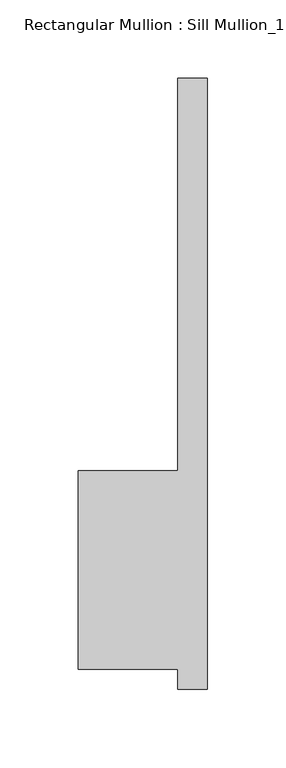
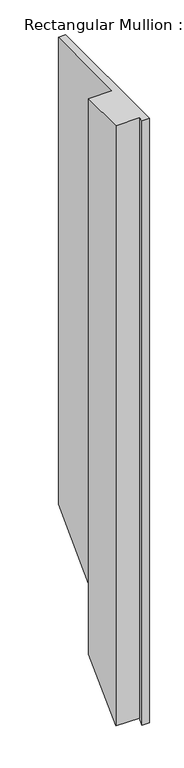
"""IFC4 building model written with IfcOpenShell, lengths in millimetres: member geometry."""

from ifc_helpers import new_model, si_unit, origin, place, context, project, spatial, faceted_brep, source, transform, mapped, element, save


def member_7f7acbde(model_context):
    return source(origin(), model_context, "Body", "Brep", [
        faceted_brep([(-82.55, 50.8, 0.0), (-82.55, -76.2, 0.0), (-19.05, -76.2, 0.0), (-19.05, -88.9, 0.0), (0.0, -88.9, 0.0), (0.0, 301.625, 0.0), (-19.05, 301.625, 0.0), (-19.05, 50.8, 0.0), (-82.55, 50.8, -1577.975), (-82.55, -76.2, -1704.975), (-19.05, -76.2, -1704.975), (-19.05, -88.9, -1717.675), (0.0, -88.9, -1717.675), (0.0, 301.625, -1327.15), (-19.05, 301.625, -1327.15), (-19.05, 50.8, -1577.975)], [[[0, 1, 2, 3, 4, 5, 6, 7]], [[1, 0, 8, 9]], [[2, 1, 9, 10]], [[3, 2, 10, 11]], [[4, 3, 11, 12]], [[5, 4, 12, 13]], [[6, 5, 13, 14]], [[7, 6, 14, 15]], [[0, 7, 15, 8]], [[8, 15, 14, 13, 12, 11, 10, 9]]]),
    ])


if __name__ == "__main__":
    model = new_model("IFC4")
    model_context = context("Model", 3, world=origin())
    ifc_project = project(units=[si_unit("LENGTHUNIT", "METRE", prefix="MILLI")], contexts=[model_context])
    site = spatial("IfcSite", under=ifc_project)
    building = spatial("IfcBuilding", under=site)
    placement = place(None, origin())
    member_shape = member_7f7acbde(model_context)
    element("IfcMember", 1, ObjectType="Rectangular Mullion : Sill Mullion_15\" thick wall", at=placement, inside=building, context=model_context, shape_type="MappedRepresentation", body=[
        mapped(member_shape, transform((0.0, 0.0, 0.0), x_axis=(1.0, 0.0, 0.0), y_axis=(0.0, 1.0, 0.0), z_axis=(0.0, 0.0, 1.0))),
    ])
    save(model, "model.ifc")
